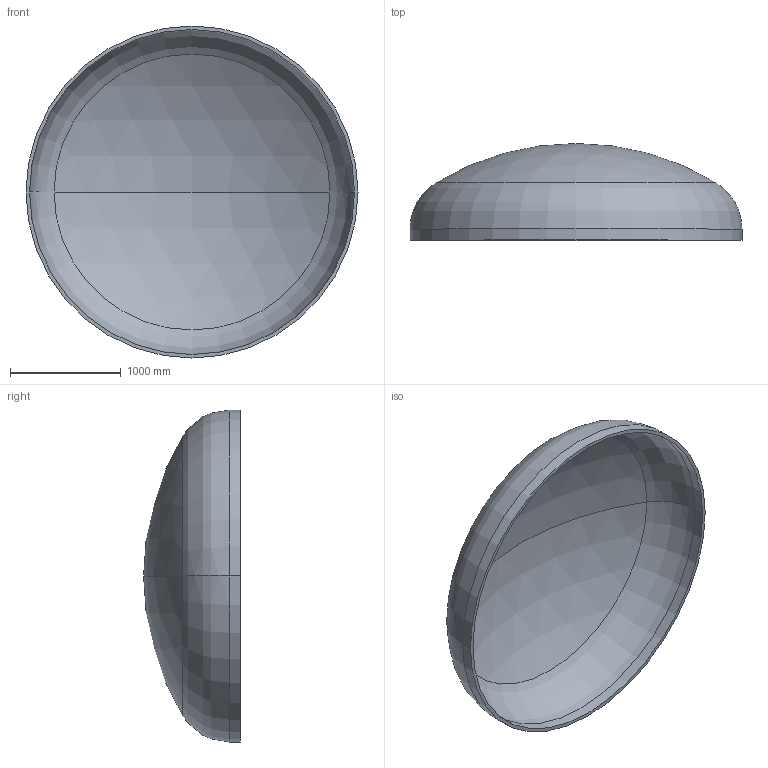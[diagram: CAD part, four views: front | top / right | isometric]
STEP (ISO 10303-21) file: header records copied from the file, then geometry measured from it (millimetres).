
FILE_DESCRIPTION (( 'STEP AP203' ), '1' );
FILE_NAME ('DIN 28013 Korbbogenform_-_Boden DIN 28013 - 3000 x 100 - I - s=32.step', '2016-07-01T17:41:16', ( '' ), ( '' ), 'SwSTEP 2.0', 'SolidWorks 2013', '' );
FILE_SCHEMA (( 'CONFIG_CONTROL_DESIGN' ));
Length unit declared in the file: millimetre
Products named in the file (1): DIN 28013 Korbbogenform_-_Boden DIN 28013 - 3000 x 100 - I - s=32
Bounding box: 3000 x 874.43 x 3000 mm (x, y, z)
Volume: 338463407.8 mm3; surface area: 21454475.8 mm2
Topology: 1 solids, 1 shells, 13 faces, 24 edges, 14 vertices
Faces by surface type: torus 4, cylinder 4, sphere 4, plane 1
Entity records: 407 total; most frequent: DIRECTION 72, CARTESIAN_POINT 52, ORIENTED_EDGE 48, AXIS2_PLACEMENT_3D 34, EDGE_CURVE 24, CIRCLE 20, EDGE_LOOP 14, VERTEX_POINT 14
